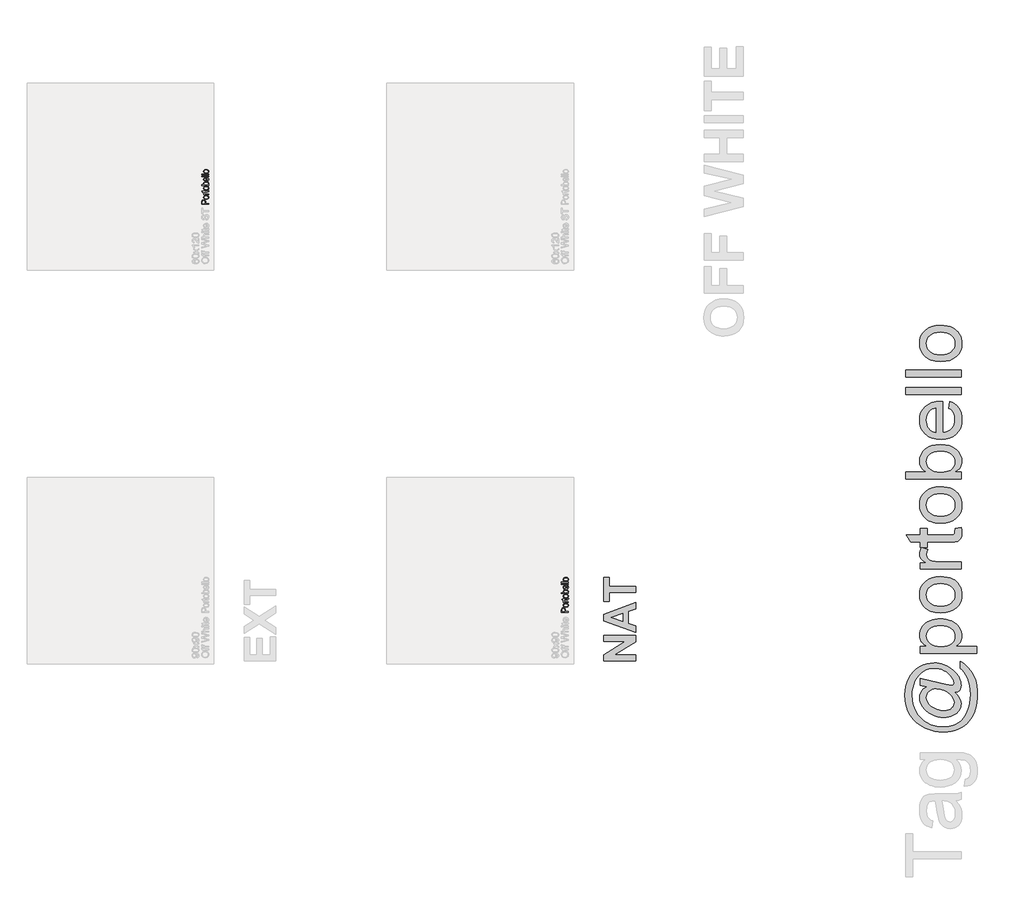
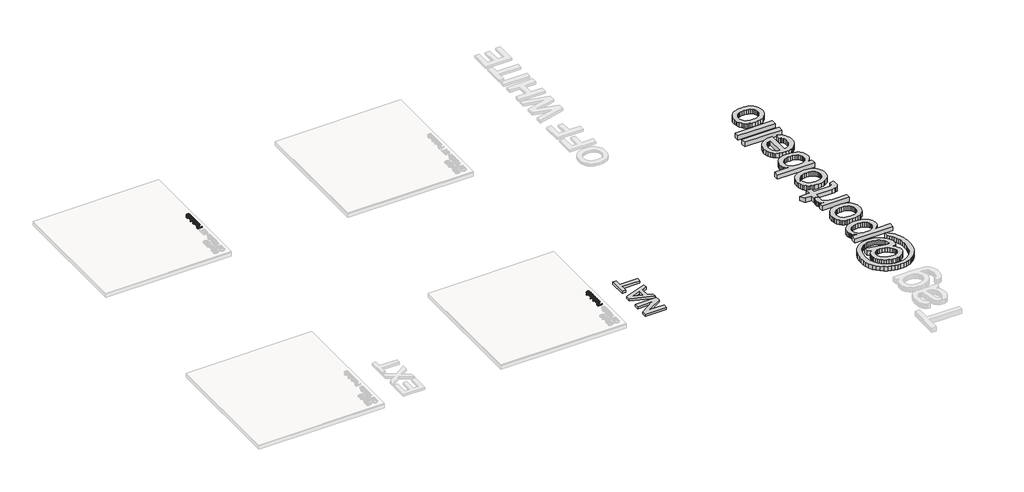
# One storey, part 4 of 12: 4 proxies.
"""IFC4 building model written with IfcOpenShell, lengths in millimetres."""

from ifc_helpers import new_model, si_unit, frame, origin, origin_with_axes, place, context, project, spatial, polyline, outline, extrude, element, save

model = new_model("IFC4")

# Units and contexts
model_context = context("Model", 3, world=origin())
ifc_project = project(units=[si_unit("LENGTHUNIT", "METRE", prefix="MILLI")], contexts=[model_context])

# Site, building, storey
site = spatial("IfcSite", under=ifc_project)
building = spatial("IfcBuilding", under=site)
storey = spatial("IfcBuildingStorey", under=building, Name="PORTOBELLO - SHOWROOM", Elevation=0.0)

# Proxies
placement = place(None, origin())
element("IfcBuildingElementProxy", 1, Name="10mm Arial Narrow", ObjectType="10mm Arial Narrow", at=placement, inside=storey, context=model_context, shape_type="SweptSolid", body=[
    extrude(outline(polyline([(-5684.554372, -7796.6698539), (-5785.2729757, -7796.6698539), (-5785.2729757, -7765.3729692), (-5783.394655, -7749.0772677), (-5773.9142118, -7737.6042816), (-5756.895103, -7733.3146032), (-5744.8192774, -7735.1009116), (-5735.1928837, -7740.4598368), (-5728.8916253, -7750.2036256), (-5726.7912058, -7765.1445248), (-5726.7912058, -7786.9228923), (-5684.554372, -7786.9228923), (-5684.554372, -7796.6698539)]), holes=[polyline([(-5738.1626611, -7786.9228923), (-5738.1626611, -7763.9515373), (-5742.6934753, -7748.0873419), (-5756.362066, -7743.0615648), (-5766.5278424, -7745.5363793), (-5772.3277923, -7751.5140081), (-5773.9015204, -7764.1799817), (-5773.9015204, -7786.9228923), (-5738.1626611, -7786.9228923)])]), frame((0.0, 0.0, 18.0), z_axis=(0.0, 0.0, 1.0), x_axis=(1.0, 0.0, 0.0)), (0.0, 0.0, 1.0), 20.0),
    extrude(outline(polyline([(-5721.1054782, -7725.1921351), (-5737.6962537, -7723.2376663), (-5749.6483385, -7717.3742596), (-5756.8728931, -7708.5156929), (-5759.281078, -7697.5757438), (-5756.8728931, -7686.7627082), (-5749.6483385, -7677.8787588), (-5737.8866241, -7671.939204), (-5721.8669595, -7669.9593524), (-5704.705073, -7671.9043028), (-5692.5626178, -7677.7391539), (-5685.3380632, -7686.588202), (-5682.9298783, -7697.5757438), (-5685.3444089, -7708.436372), (-5692.5880005, -7717.3108029), (-5704.546431, -7723.2218021), (-5721.1054782, -7725.1921351)]), holes=[polyline([(-5721.1308609, -7715.4451735), (-5708.5791095, -7714.1411366), (-5699.7078514, -7710.229026), (-5694.4345929, -7704.3878293), (-5692.67684, -7697.2965339), (-5694.450457, -7690.5764608), (-5699.7713082, -7684.8843875), (-5708.6584304, -7681.0008324), (-5721.1308609, -7679.7063141), (-5733.6445382, -7681.0103509), (-5742.5031049, -7684.9224615), (-5747.7763635, -7690.7636583), (-5749.5341163, -7697.8549536), (-5747.7668449, -7704.6226194), (-5742.4650308, -7710.3051742), (-5733.5969456, -7714.1601737), (-5721.1308609, -7715.4451735)])]), frame((0.0, 0.0, 18.0), z_axis=(0.0, 0.0, 1.0), x_axis=(1.0, 0.0, 0.0)), (0.0, 0.0, 1.0), 20.0),
    extrude(outline(polyline([(-5692.67684, -7598.4816336), (-5682.9298783, -7596.85714), (-5682.9298783, -7604.2181267), (-5685.0493349, -7612.492891), (-5690.8492847, -7616.8079522), (-5705.4951099, -7617.9755569), (-5747.9096227, -7617.9755569), (-5747.9096227, -7626.098025), (-5751.1586099, -7626.098025), (-5746.2851291, -7627.7225186), (-5747.9096227, -7635.286567), (-5745.5871045, -7641.3657266), (-5739.1018214, -7645.2365903), (-5723.6945148, -7647.2164419), (-5684.554372, -7647.2164419), (-5684.554372, -7656.9634036), (-5757.6565844, -7656.9634036), (-5757.6565844, -7647.2164419), (-5747.9603881, -7647.2164419), (-5757.0473993, -7640.9722946), (-5759.281078, -7634.575851), (-5757.6565844, -7626.098025), (-5757.6565844, -7617.9755569), (-5773.9015204, -7617.9755569), (-5782.0239885, -7608.2285953), (-5757.6565844, -7608.2285953), (-5757.6565844, -7598.4816336), (-5747.9096227, -7598.4816336), (-5747.9096227, -7608.2285953), (-5703.2614312, -7608.2285953), (-5695.2658767, -7607.3655831), (-5692.67684, -7602.7459294), (-5692.67684, -7598.4816336)])), frame((0.0, 0.0, 18.0), z_axis=(0.0, 0.0, 1.0), x_axis=(1.0, 0.0, 0.0)), (0.0, 0.0, 1.0), 20.0),
    extrude(outline(polyline([(-5721.1054782, -7591.9836592), (-5737.6962537, -7590.0291903), (-5749.6483385, -7584.1657837), (-5756.8728931, -7575.307217), (-5759.281078, -7564.3672679), (-5756.8728931, -7553.5542323), (-5749.6483385, -7544.6702828), (-5737.8866241, -7538.7307281), (-5721.8669595, -7536.7508765), (-5704.705073, -7538.6958269), (-5692.5626178, -7544.5306779), (-5685.3380632, -7553.3797261), (-5682.9298783, -7564.3672679), (-5685.3444089, -7575.227896), (-5692.5880005, -7584.1023269), (-5704.546431, -7590.0133261), (-5721.1054782, -7591.9836592)]), holes=[polyline([(-5721.1308609, -7582.2366975), (-5708.5791095, -7580.9326607), (-5699.7078514, -7577.0205501), (-5694.4345929, -7571.1793534), (-5692.67684, -7564.088058), (-5694.450457, -7557.3679848), (-5699.7713082, -7551.6759115), (-5708.6584304, -7547.7923565), (-5721.1308609, -7546.4978382), (-5733.6445382, -7547.801875), (-5742.5031049, -7551.7139856), (-5747.7763635, -7557.5551823), (-5749.5341163, -7564.6464777), (-5747.7668449, -7571.4141434), (-5742.4650308, -7577.0966982), (-5733.5969456, -7580.9516977), (-5721.1308609, -7582.2366975)])]), frame((0.0, 0.0, 18.0), z_axis=(0.0, 0.0, 1.0), x_axis=(1.0, 0.0, 0.0)), (0.0, 0.0, 1.0), 20.0),
    extrude(outline(polyline([(-5684.554372, -7514.007966), (-5684.554372, -7523.7549276), (-5785.2729757, -7523.7549276), (-5785.2729757, -7514.007966), (-5749.8640916, -7514.007966), (-5756.9458684, -7506.6089052), (-5759.281078, -7497.4076719), (-5755.080239, -7484.5259452), (-5742.3508086, -7475.2485638), (-5721.6638978, -7471.7711321), (-5705.2095544, -7473.7033911), (-5693.0068153, -7479.5001681), (-5685.4491126, -7487.8732905), (-5682.9298783, -7497.5345855), (-5685.5442978, -7506.8754237), (-5693.3114078, -7514.007966), (-5684.554372, -7514.007966)]), holes=[polyline([(-5721.6638978, -7514.007966), (-5704.4163446, -7511.9265835), (-5695.6846915, -7506.0377942), (-5692.67684, -7497.5853509), (-5694.4663212, -7491.6426233), (-5699.834765, -7486.404266), (-5721.2577744, -7481.5180938), (-5742.6934753, -7486.226587), (-5747.8239561, -7491.47129), (-5749.5341163, -7497.7884126), (-5747.7446351, -7503.7660414), (-5742.3761914, -7509.058337), (-5721.6638978, -7514.007966)])]), frame((0.0, 0.0, 18.0), z_axis=(0.0, 0.0, 1.0), x_axis=(1.0, 0.0, 0.0)), (0.0, 0.0, 1.0), 20.0),
    extrude(outline(polyline([(-5707.2972825, -7419.7873367), (-5705.6727889, -7410.040375), (-5695.7862223, -7413.7399054), (-5688.6663714, -7419.5588922), (-5684.3640016, -7427.2625455), (-5682.9298783, -7436.6160751), (-5685.3444089, -7448.2096291), (-5692.5880005, -7457.3537514), (-5704.3941347, -7463.2933061), (-5720.4962931, -7465.2731577), (-5737.1632167, -7463.2837876), (-5749.343746, -7457.3156773), (-5756.796745, -7448.3016415), (-5759.281078, -7437.1744948), (-5756.8824116, -7426.4915456), (-5749.6864126, -7417.7440283), (-5737.946908, -7411.9091772), (-5721.917725, -7409.9642269), (-5718.6687377, -7410.040375), (-5718.6687377, -7455.5261961), (-5699.2255799, -7449.5231845), (-5694.314025, -7443.5931483), (-5692.67684, -7436.4891616), (-5696.3319506, -7426.3106938), (-5707.2972825, -7419.7873367)]), holes=[polyline([(-5728.4156994, -7454.8662455), (-5728.4156994, -7419.7873367), (-5742.6807839, -7424.0516324), (-5747.8207832, -7429.8769649), (-5749.5341163, -7437.0983467), (-5743.823006, -7449.3074315), (-5728.4156994, -7454.8662455)])]), frame((0.0, 0.0, 18.0), z_axis=(0.0, 0.0, 1.0), x_axis=(1.0, 0.0, 0.0)), (0.0, 0.0, 1.0), 20.0),
    extrude(outline(polyline([(-5684.554372, -7397.0444261), (-5785.2729757, -7397.0444261), (-5785.2729757, -7387.2974645), (-5684.554372, -7387.2974645), (-5684.554372, -7397.0444261)])), frame((0.0, 0.0, 18.0), z_axis=(0.0, 0.0, 1.0), x_axis=(1.0, 0.0, 0.0)), (0.0, 0.0, 1.0), 20.0),
    extrude(outline(polyline([(-5684.554372, -7371.0525284), (-5785.2729757, -7371.0525284), (-5785.2729757, -7361.3055667), (-5684.554372, -7361.3055667), (-5684.554372, -7371.0525284)])), frame((0.0, 0.0, 18.0), z_axis=(0.0, 0.0, 1.0), x_axis=(1.0, 0.0, 0.0)), (0.0, 0.0, 1.0), 20.0),
    extrude(outline(polyline([(-5721.1054782, -7349.9341115), (-5737.6962537, -7347.9796426), (-5749.6483385, -7342.116236), (-5756.8728931, -7333.2576693), (-5759.281078, -7322.3177201), (-5756.8728931, -7311.5046845), (-5749.6483385, -7302.6207351), (-5737.8866241, -7296.6811804), (-5721.8669595, -7294.7013288), (-5704.705073, -7296.6462791), (-5692.5626178, -7302.4811302), (-5685.3380632, -7311.3301784), (-5682.9298783, -7322.3177201), (-5685.3444089, -7333.1783483), (-5692.5880005, -7342.0527792), (-5704.546431, -7347.9637784), (-5721.1054782, -7349.9341115)]), holes=[polyline([(-5721.1308609, -7340.1871498), (-5708.5791095, -7338.883113), (-5699.7078514, -7334.9710024), (-5694.4345929, -7329.1298056), (-5692.67684, -7322.0385103), (-5694.450457, -7315.3184371), (-5699.7713082, -7309.6263638), (-5708.6584304, -7305.7428088), (-5721.1308609, -7304.4482904), (-5733.6445382, -7305.7523273), (-5742.5031049, -7309.6644379), (-5747.7763635, -7315.5056346), (-5749.5341163, -7322.59693), (-5747.7668449, -7329.3645957), (-5742.4650308, -7335.0471505), (-5733.5969456, -7338.90215), (-5721.1308609, -7340.1871498)])]), frame((0.0, 0.0, 18.0), z_axis=(0.0, 0.0, 1.0), x_axis=(1.0, 0.0, 0.0)), (0.0, 0.0, 1.0), 20.0),
])
element("IfcBuildingElementProxy", 2, Name="10mm Arial Narrow", ObjectType="10mm Arial Narrow", at=placement, inside=storey, context=model_context, shape_type="SweptSolid", body=[
    extrude(outline(polyline([(-10884.579388, -1896.6698539), (-10985.2979918, -1896.6698539), (-10985.2979918, -1865.3729692), (-10983.4196711, -1849.0772677), (-10973.9392279, -1837.6042816), (-10956.9201191, -1833.3146032), (-10944.8442935, -1835.1009116), (-10935.2178998, -1840.4598368), (-10928.9166413, -1850.2036256), (-10926.8162219, -1865.1445248), (-10926.8162219, -1886.9228923), (-10884.579388, -1886.9228923), (-10884.579388, -1896.6698539)]), holes=[polyline([(-10938.1876771, -1886.9228923), (-10938.1876771, -1863.9515373), (-10942.7184913, -1848.0873419), (-10956.3870821, -1843.0615648), (-10966.5528585, -1845.5363793), (-10972.3528083, -1851.5140081), (-10973.9265365, -1864.1799817), (-10973.9265365, -1886.9228923), (-10938.1876771, -1886.9228923)])]), frame((0.0, 0.0, 19.0), z_axis=(0.0, 0.0, 1.0), x_axis=(1.0, 0.0, 0.0)), (0.0, 0.0, 1.0), 20.0),
    extrude(outline(polyline([(-10921.1304942, -1825.1921351), (-10937.7212698, -1823.2376663), (-10949.6733546, -1817.3742596), (-10956.8979092, -1808.5156929), (-10959.3060941, -1797.5757438), (-10956.8979092, -1786.7627082), (-10949.6733546, -1777.8787588), (-10937.9116401, -1771.939204), (-10921.8919756, -1769.9593524), (-10904.730089, -1771.9043028), (-10892.5876339, -1777.7391539), (-10885.3630793, -1786.588202), (-10882.9548944, -1797.5757438), (-10885.369425, -1808.436372), (-10892.6130166, -1817.3108029), (-10904.5714471, -1823.2218021), (-10921.1304942, -1825.1921351)]), holes=[polyline([(-10921.155877, -1815.4451735), (-10908.6041256, -1814.1411366), (-10899.7328675, -1810.229026), (-10894.4596089, -1804.3878293), (-10892.7018561, -1797.2965339), (-10894.4754731, -1790.5764608), (-10899.7963243, -1784.8843875), (-10908.6834465, -1781.0008324), (-10921.155877, -1779.7063141), (-10933.6695543, -1781.0103509), (-10942.528121, -1784.9224615), (-10947.8013795, -1790.7636583), (-10949.5591324, -1797.8549536), (-10947.791861, -1804.6226194), (-10942.4900469, -1810.3051742), (-10933.6219617, -1814.1601737), (-10921.155877, -1815.4451735)])]), frame((0.0, 0.0, 19.0), z_axis=(0.0, 0.0, 1.0), x_axis=(1.0, 0.0, 0.0)), (0.0, 0.0, 1.0), 20.0),
    extrude(outline(polyline([(-10892.7018561, -1698.4816336), (-10882.9548944, -1696.85714), (-10882.9548944, -1704.2181267), (-10885.0743509, -1712.492891), (-10890.8743008, -1716.8079522), (-10905.520126, -1717.9755569), (-10947.9346388, -1717.9755569), (-10947.9346388, -1726.098025), (-10951.183626, -1726.098025), (-10946.3101452, -1727.7225186), (-10947.9346388, -1735.286567), (-10945.6121206, -1741.3657266), (-10939.1268375, -1745.2365903), (-10923.7195309, -1747.2164419), (-10884.579388, -1747.2164419), (-10884.579388, -1756.9634036), (-10957.6816004, -1756.9634036), (-10957.6816004, -1747.2164419), (-10947.9854042, -1747.2164419), (-10957.0724153, -1740.9722946), (-10959.3060941, -1734.575851), (-10957.6816004, -1726.098025), (-10957.6816004, -1717.9755569), (-10973.9265365, -1717.9755569), (-10982.0490046, -1708.2285953), (-10957.6816004, -1708.2285953), (-10957.6816004, -1698.4816336), (-10947.9346388, -1698.4816336), (-10947.9346388, -1708.2285953), (-10903.2864473, -1708.2285953), (-10895.2908928, -1707.3655831), (-10892.7018561, -1702.7459294), (-10892.7018561, -1698.4816336)])), frame((0.0, 0.0, 19.0), z_axis=(0.0, 0.0, 1.0), x_axis=(1.0, 0.0, 0.0)), (0.0, 0.0, 1.0), 20.0),
    extrude(outline(polyline([(-10921.1304942, -1691.9836592), (-10937.7212698, -1690.0291903), (-10949.6733546, -1684.1657837), (-10956.8979092, -1675.307217), (-10959.3060941, -1664.3672679), (-10956.8979092, -1653.5542323), (-10949.6733546, -1644.6702828), (-10937.9116401, -1638.7307281), (-10921.8919756, -1636.7508765), (-10904.730089, -1638.6958269), (-10892.5876339, -1644.5306779), (-10885.3630793, -1653.3797261), (-10882.9548944, -1664.3672679), (-10885.369425, -1675.227896), (-10892.6130166, -1684.1023269), (-10904.5714471, -1690.0133261), (-10921.1304942, -1691.9836592)]), holes=[polyline([(-10921.155877, -1682.2366975), (-10908.6041256, -1680.9326607), (-10899.7328675, -1677.0205501), (-10894.4596089, -1671.1793534), (-10892.7018561, -1664.088058), (-10894.4754731, -1657.3679848), (-10899.7963243, -1651.6759115), (-10908.6834465, -1647.7923565), (-10921.155877, -1646.4978382), (-10933.6695543, -1647.801875), (-10942.528121, -1651.7139856), (-10947.8013795, -1657.5551823), (-10949.5591324, -1664.6464777), (-10947.791861, -1671.4141434), (-10942.4900469, -1677.0966982), (-10933.6219617, -1680.9516977), (-10921.155877, -1682.2366975)])]), frame((0.0, 0.0, 19.0), z_axis=(0.0, 0.0, 1.0), x_axis=(1.0, 0.0, 0.0)), (0.0, 0.0, 1.0), 20.0),
    extrude(outline(polyline([(-10884.579388, -1614.007966), (-10884.579388, -1623.7549276), (-10985.2979918, -1623.7549276), (-10985.2979918, -1614.007966), (-10949.8891077, -1614.007966), (-10956.9708845, -1606.6089052), (-10959.3060941, -1597.4076719), (-10955.1052551, -1584.5259452), (-10942.3758247, -1575.2485638), (-10921.6889139, -1571.7711321), (-10905.2345705, -1573.7033911), (-10893.0318313, -1579.5001681), (-10885.4741287, -1587.8732905), (-10882.9548944, -1597.5345855), (-10885.5693138, -1606.8754237), (-10893.3364239, -1614.007966), (-10884.579388, -1614.007966)]), holes=[polyline([(-10921.6889139, -1614.007966), (-10904.4413607, -1611.9265835), (-10895.7097075, -1606.0377942), (-10892.7018561, -1597.5853509), (-10894.4913373, -1591.6426233), (-10899.859781, -1586.404266), (-10921.2827905, -1581.5180938), (-10942.7184913, -1586.226587), (-10947.8489721, -1591.47129), (-10949.5591324, -1597.7884126), (-10947.7696512, -1603.7660414), (-10942.4012074, -1609.058337), (-10921.6889139, -1614.007966)])]), frame((0.0, 0.0, 19.0), z_axis=(0.0, 0.0, 1.0), x_axis=(1.0, 0.0, 0.0)), (0.0, 0.0, 1.0), 20.0),
    extrude(outline(polyline([(-10907.3222986, -1519.7873367), (-10905.697805, -1510.040375), (-10895.8112384, -1513.7399054), (-10888.6913875, -1519.5588922), (-10884.3890177, -1527.2625455), (-10882.9548944, -1536.6160751), (-10885.369425, -1548.2096291), (-10892.6130166, -1557.3537514), (-10904.4191508, -1563.2933061), (-10920.5213091, -1565.2731577), (-10937.1882328, -1563.2837876), (-10949.3687621, -1557.3156773), (-10956.8217611, -1548.3016415), (-10959.3060941, -1537.1744948), (-10956.9074277, -1526.4915456), (-10949.7114287, -1517.7440283), (-10937.9719241, -1511.9091772), (-10921.942741, -1509.9642269), (-10918.6937538, -1510.040375), (-10918.6937538, -1555.5261961), (-10899.2505959, -1549.5231845), (-10894.339041, -1543.5931483), (-10892.7018561, -1536.4891616), (-10896.3569667, -1526.3106938), (-10907.3222986, -1519.7873367)]), holes=[polyline([(-10928.4407155, -1554.8662455), (-10928.4407155, -1519.7873367), (-10942.7058, -1524.0516324), (-10947.8457993, -1529.8769649), (-10949.5591324, -1537.0983467), (-10943.8480221, -1549.3074315), (-10928.4407155, -1554.8662455)])]), frame((0.0, 0.0, 19.0), z_axis=(0.0, 0.0, 1.0), x_axis=(1.0, 0.0, 0.0)), (0.0, 0.0, 1.0), 20.0),
    extrude(outline(polyline([(-10884.579388, -1497.0444261), (-10985.2979918, -1497.0444261), (-10985.2979918, -1487.2974645), (-10884.579388, -1487.2974645), (-10884.579388, -1497.0444261)])), frame((0.0, 0.0, 19.0), z_axis=(0.0, 0.0, 1.0), x_axis=(1.0, 0.0, 0.0)), (0.0, 0.0, 1.0), 20.0),
    extrude(outline(polyline([(-10884.579388, -1471.0525284), (-10985.2979918, -1471.0525284), (-10985.2979918, -1461.3055667), (-10884.579388, -1461.3055667), (-10884.579388, -1471.0525284)])), frame((0.0, 0.0, 19.0), z_axis=(0.0, 0.0, 1.0), x_axis=(1.0, 0.0, 0.0)), (0.0, 0.0, 1.0), 20.0),
    extrude(outline(polyline([(-10921.1304942, -1449.9341115), (-10937.7212698, -1447.9796426), (-10949.6733546, -1442.116236), (-10956.8979092, -1433.2576693), (-10959.3060941, -1422.3177201), (-10956.8979092, -1411.5046845), (-10949.6733546, -1402.6207351), (-10937.9116401, -1396.6811804), (-10921.8919756, -1394.7013288), (-10904.730089, -1396.6462791), (-10892.5876339, -1402.4811302), (-10885.3630793, -1411.3301784), (-10882.9548944, -1422.3177201), (-10885.369425, -1433.1783483), (-10892.6130166, -1442.0527792), (-10904.5714471, -1447.9637784), (-10921.1304942, -1449.9341115)]), holes=[polyline([(-10921.155877, -1440.1871498), (-10908.6041256, -1438.883113), (-10899.7328675, -1434.9710024), (-10894.4596089, -1429.1298056), (-10892.7018561, -1422.0385103), (-10894.4754731, -1415.3184371), (-10899.7963243, -1409.6263638), (-10908.6834465, -1405.7428088), (-10921.155877, -1404.4482904), (-10933.6695543, -1405.7523273), (-10942.528121, -1409.6644379), (-10947.8013795, -1415.5056346), (-10949.5591324, -1422.59693), (-10947.791861, -1429.3645957), (-10942.4900469, -1435.0471505), (-10933.6219617, -1438.90215), (-10921.155877, -1440.1871498)])]), frame((0.0, 0.0, 19.0), z_axis=(0.0, 0.0, 1.0), x_axis=(1.0, 0.0, 0.0)), (0.0, 0.0, 1.0), 20.0),
])
element("IfcBuildingElementProxy", 3, Name="450mm Arial", ObjectType="450mm Arial", at=placement, inside=storey, context=model_context, shape_type="SweptSolid", body=[
    extrude(outline(polyline([(-4714.3439144, -8502.1411661), (-5173.4606444, -8502.1411661), (-5173.4606444, -8410.4772356), (-4864.4222502, -8217.9260475), (-5173.4606444, -8217.9260475), (-5173.4606444, -8130.4752418), (-4714.3439144, -8130.4752418), (-4714.3439144, -8224.9858782), (-5018.8275791, -8414.6903604), (-4714.3439144, -8414.6903604), (-4714.3439144, -8502.1411661)])), origin_with_axes(), (0.0, 0.0, 1.0), 50.0),
    extrude(outline(polyline([(-4714.3439144, -7656.7833775), (-4714.3439144, -7748.6750445), (-4816.3698544, -7784.6574072), (-4816.3698544, -7957.9648634), (-4714.3439144, -7993.4917532), (-4714.3439144, -8086.749839), (-5173.4606444, -7919.3635311), (-5173.4606444, -7825.9915771), (-4714.3439144, -7656.7833775)]), holes=[polyline([(-4896.533093, -7812.6689935), (-5064.1471372, -7871.7666082), (-4896.533093, -7930.0671454), (-4896.533093, -7812.6689935)])]), origin_with_axes(), (0.0, 0.0, 1.0), 50.0),
    extrude(outline(polyline([(-4714.3439144, -7511.0320347), (-5093.2974058, -7511.0320347), (-5093.2974058, -7642.2082433), (-5173.4606444, -7642.2082433), (-5173.4606444, -7292.4050204), (-5093.2974058, -7292.4050204), (-5093.2974058, -7423.581229), (-4714.3439144, -7423.581229), (-4714.3439144, -7511.0320347)])), origin_with_axes(), (0.0, 0.0, 1.0), 50.0),
])
element("IfcBuildingElementProxy", 4, Name="80mm Arial", ObjectType="80mm Arial", at=placement, inside=storey, context=model_context, shape_type="SweptSolid", body=[
    extrude(outline(polyline([(-100.2950777, -8955.7052888), (-62.9945003, -8992.9570753), (-33.8419889, -9034.4536627), (-15.03313, -9078.1458368), (-8.7635104, -9121.9843833), (-10.5565728, -9145.9162776), (-15.9357601, -9169.5066362), (-24.9010722, -9192.7554591), (-37.4525091, -9215.6627463), (-53.7242456, -9237.3319667), (-73.8504564, -9256.8665889), (-97.8311416, -9274.2666129), (-125.666301, -9289.5320389), (-156.1605598, -9301.9553999), (-188.1185431, -9310.8292293), (-221.5402507, -9316.1535268), (-256.4256828, -9317.9282927), (-300.2642293, -9315.1777106), (-344.1515666, -9306.9259641), (-388.0876947, -9293.1730534), (-432.0726136, -9273.9189784), (-473.3374446, -9250.5725738), (-509.1133091, -9224.5426745), (-539.4002069, -9195.8292804), (-564.1981382, -9164.4323915), (-583.4949052, -9131.9316105), (-597.2783102, -9099.9065399), (-605.5483532, -9068.3571797), (-608.3050342, -9037.28353), (-606.7376293, -9014.120091), (-602.0354145, -8991.4689555), (-583.2265557, -8947.7035953), (-569.0467254, -8927.0772786), (-551.5857128, -8907.9390818), (-506.8201408, -8874.1270476), (-595.8145857, -8855.7817015), (-595.8145857, -8755.8581142), (-229.2979902, -8838.6073349), (-144.7923001, -8855.7817015), (-131.0088951, -8852.9762297), (-119.3234952, -8844.5598142), (-111.3461971, -8832.1913429), (-108.6870977, -8817.5297032), (-110.6631257, -8801.8556542), (-116.5912096, -8783.9128323), (-140.3035452, -8741.22087), (-162.6680347, -8711.6231423), (-188.5820558, -8685.2822016), (-218.0456087, -8662.1980477), (-251.0586933, -8642.3706806), (-286.120992, -8626.4465786), (-321.7321875, -8615.0722201), (-357.8922796, -8608.247605), (-394.6012684, -8605.9727332), (-437.0248812, -8608.9001821), (-478.0335605, -8617.6825286), (-517.6273061, -8632.3197729), (-555.8061182, -8652.8119148), (-591.4051159, -8679.1162624), (-623.2594187, -8711.1901239), (-651.3690265, -8749.0334991), (-675.7339393, -8792.646388), (-695.4149339, -8840.3577054), (-709.4727872, -8890.4963657), (-717.9074992, -8943.0623691), (-720.7190699, -8998.0557154), (-717.1512416, -9060.7885047), (-706.4477567, -9120.7646129), (-688.6086153, -9177.9840401), (-663.6338174, -9232.4467864), (-631.9990733, -9282.5427548), (-594.1800935, -9326.6618484), (-550.176878, -9364.8040674), (-499.9894268, -9396.9694116), (-445.758437, -9422.499205), (-389.6246053, -9440.7347718), (-331.5879319, -9451.6761119), (-271.6484168, -9455.3232252), (-209.9585312, -9451.712705), (-152.7208074, -9440.8811443), (-99.9352454, -9422.828543), (-51.6018452, -9397.5549013), (-8.5073586, -9365.4444468), (28.5614624, -9326.8814071), (59.6046179, -9281.8657822), (84.6221078, -9230.3975722), (103.8761828, -9174.2332463), (117.6290935, -9115.1292739), (125.88084, -9053.0856549), (128.6314221, -8988.1023893), (125.8991365, -8919.8562381), (117.7022798, -8857.3917983), (104.0408518, -8800.7090701), (84.9148527, -8749.8080532), (61.8855884, -8704.8107249), (36.5143651, -8665.8390622), (8.8011827, -8632.8930649), (-21.2539588, -8605.9727332), (-21.2539588, -8506.049146), (8.0571228, -8522.2781905), (37.6365538, -8543.447305), (67.4843343, -8569.5564894), (97.6004644, -8600.6057437), (126.2711665, -8635.7168333), (151.7826634, -8674.0115235), (174.1349551, -8715.4898144), (193.3280416, -8760.1517058), (208.73984, -8808.7717521), (219.7482675, -8862.1245073), (226.3533239, -8920.2099715), (228.5550094, -8983.0281447), (226.6094757, -9041.8759653), (220.7728746, -9098.3940246), (211.045206, -9152.5823225), (197.42647, -9204.4408591), (179.9105678, -9253.2621675), (158.4914004, -9298.3387808), (133.1689678, -9339.6706992), (103.9432702, -9377.2579227), (71.5766639, -9410.7650143), (36.8315054, -9439.8565372), (-0.2922053, -9464.5324914), (-39.7944682, -9484.792877), (-92.342175, -9504.6873314), (-146.939096, -9518.897656), (-203.5852311, -9527.4238508), (-262.2805805, -9530.2659157), (-328.0384002, -9526.8749541), (-392.2105185, -9516.7020694), (-454.7969353, -9499.7472615), (-515.7976506, -9476.0105304), (-585.3428573, -9439.5515946), (-646.2398921, -9396.1399677), (-698.4887552, -9345.7756499), (-742.0894464, -9288.458641), (-776.4564761, -9224.4328952), (-801.0043545, -9153.9423665), (-815.7330815, -9076.9870549), (-820.6426572, -8993.5669605), (-817.2029048, -8928.1384788), (-806.8836476, -8866.1253541), (-789.6848856, -8807.5275863), (-765.6066188, -8752.3451756), (-734.7098358, -8701.6881128), (-697.055525, -8656.6663891), (-652.6436865, -8617.2800044), (-601.4743202, -8583.5289588), (-553.5983338, -8560.560683), (-503.6487379, -8544.1547718), (-451.6255324, -8534.311225), (-397.5287172, -8531.0300428), (-358.7979591, -8532.7316224), (-321.1588954, -8537.8363613), (-284.6115262, -8546.3442596), (-249.1558515, -8558.2553171), (-214.7918712, -8573.5695338), (-181.5195855, -8592.2869099), (-149.3389941, -8614.4074452), (-118.2500973, -8639.9311399), (-70.3497155, -8689.7465611), (-36.1351571, -8741.8063597), (-24.1600617, -8768.6779006), (-15.6064221, -8796.1105358), (-10.4742383, -8824.1042654), (-8.7635104, -8852.6590894), (-11.6421684, -8885.9832154), (-20.2781425, -8912.1838826), (-34.2323154, -8931.8465807), (-53.0655696, -8945.5567994), (-71.8012422, -8951.6068604), (-100.2950777, -8955.7052888)]), holes=[polyline([(-254.8643768, -9218.0047054), (-222.1501359, -9215.8152176), (-193.2903694, -9209.2467543), (-168.2850771, -9198.2993154), (-147.1342592, -9182.9729009), (-130.313626, -9164.8166192), (-118.2988881, -9145.3795786), (-111.0900453, -9124.6617792), (-108.6870977, -9102.6632209), (-112.9318985, -9071.6078677), (-125.666301, -9038.9424176), (-146.7439327, -9006.2281768), (-176.0184212, -8975.0264512), (-213.8800929, -8947.3376642), (-260.7192745, -8925.1622391), (-312.1447925, -8910.5981811), (-363.7654738, -8905.7434951), (-396.1930687, -8908.0183668), (-424.7783869, -8914.842982), (-449.5214285, -8926.2173405), (-470.4221935, -8942.1414425), (-487.0293668, -8961.334529), (-498.8916335, -8982.5158411), (-506.0089935, -9005.685379), (-508.3814469, -9030.8431425), (-504.2586231, -9064.3624318), (-491.8901517, -9095.8325069), (-470.4221935, -9125.8144622), (-439.0009092, -9154.869392), (-398.6753013, -9180.6309418), (-350.4943724, -9200.7327572), (-300.5325788, -9213.6867184), (-254.8643768, -9218.0047054)])]), origin_with_axes(), (0.0, 0.0, 1.0), 100.0),
    extrude(outline(polyline([(216.064561, -8393.6351103), (-595.8145857, -8393.6351103), (-595.8145857, -8293.711523), (-497.842631, -8293.711523), (-546.1699324, -8261.1192591), (-565.1556579, -8243.3594028), (-580.6894334, -8224.6237302), (-592.7712587, -8204.3755423), (-601.401134, -8182.0781403), (-606.5790591, -8157.731524), (-608.3050342, -8131.3356936), (-605.8898889, -8096.4868546), (-598.644453, -8063.7604161), (-586.5687265, -8033.1563779), (-569.6627094, -8004.6747402), (-548.365519, -7978.9375857), (-523.1162727, -7956.5669975), (-493.9149705, -7937.5629754), (-460.7616123, -7921.9255195), (-424.7905846, -7909.7156182), (-387.1362738, -7900.9942602), (-347.7986799, -7895.7614454), (-306.777803, -7894.0171738), (-262.9209599, -7895.9871029), (-221.3206921, -7901.8968903), (-181.9769993, -7911.7465359), (-144.8898818, -7925.5360397), (-111.0290568, -7943.0763374), (-81.3642418, -7964.1783645), (-55.8954368, -7988.842121), (-34.6226419, -8017.067607), (-17.8447007, -8047.470383), (-5.860457, -8078.6660098), (1.3300893, -8110.6544873), (3.726938, -8143.4358155), (2.12294, -8167.0200753), (-2.689054, -8189.372367), (-10.7090441, -8210.4926906), (-21.9370302, -8230.3810462), (-50.99196, -8265.486037), (-86.828813, -8293.711523), (216.064561, -8293.711523), (216.064561, -8393.6351103)]), holes=[polyline([(-297.6051299, -8293.711523), (-249.4485964, -8291.0097316), (-208.0251952, -8282.9043576), (-173.3349264, -8269.395401), (-145.3777899, -8250.4828617), (-123.8610409, -8227.715848), (-108.4919344, -8202.6434684), (-99.2704706, -8175.2657229), (-96.1966493, -8145.5826113), (-99.3802499, -8115.4725802), (-108.9310518, -8087.5947288), (-124.8490549, -8061.9490571), (-147.1342592, -8038.5355652), (-176.1038051, -8019.0253384), (-212.0748328, -8005.0894621), (-255.0473423, -7996.7279363), (-305.0213337, -7993.9407611), (-352.7631453, -7996.660849), (-394.1133602, -8004.8211126), (-429.0719785, -8018.4215521), (-457.6390002, -8037.4621673), (-479.8388206, -8060.2840706), (-495.6958352, -8085.2283743), (-505.2100439, -8112.2950784), (-508.3814469, -8141.4841829), (-505.0087818, -8170.5818047), (-494.8907868, -8197.9595503), (-478.0274616, -8223.6174196), (-454.4188065, -8247.5554128), (-424.3819615, -8267.748711), (-388.2340671, -8282.1724954), (-345.9751233, -8290.8267661), (-297.6051299, -8293.711523)])]), origin_with_axes(), (0.0, 0.0, 1.0), 100.0),
    extrude(outline(polyline([(-302.2890481, -7806.5840349), (-378.3173342, -7801.1804522), (-412.3885695, -7794.4259739), (-443.8311998, -7784.9697043), (-472.645225, -7772.8116433), (-498.830645, -7757.9517909), (-522.3874599, -7740.3901473), (-543.3156698, -7720.1267123), (-571.7485167, -7682.0454819), (-592.0576931, -7640.0121955), (-604.2431989, -7594.0268532), (-608.3050342, -7544.089455), (-603.3588654, -7488.9619339), (-588.520359, -7439.1160185), (-563.7895151, -7394.5517086), (-529.1663337, -7355.2690044), (-485.8217942, -7323.2073407), (-434.9268762, -7300.3061523), (-376.4815798, -7286.5654393), (-310.4859048, -7281.9852016), (-256.9989749, -7284.0100204), (-209.5377105, -7290.0844768), (-168.1021116, -7300.2085707), (-132.6921782, -7314.3823022), (-102.1064366, -7332.4288046), (-75.143413, -7354.1712111), (-51.8031073, -7379.6095218), (-32.0855195, -7408.7437367), (-16.4175694, -7440.4394693), (-5.2261764, -7473.5623332), (1.4886594, -7508.1123285), (3.726938, -7544.089455), (-1.2009342, -7600.0220245), (-15.9845509, -7650.3314527), (-40.623912, -7695.0177396), (-75.1190176, -7734.0808851), (-118.8843778, -7765.8010132), (-171.334503, -7788.4582475), (-232.4693931, -7802.052588), (-302.2890481, -7806.5840349)]), holes=[polyline([(-302.4842113, -7706.6604476), (-254.0166364, -7703.7695919), (-212.0504374, -7695.0970247), (-176.5856144, -7680.642746), (-147.6221674, -7660.4067558), (-125.1235032, -7635.7917901), (-109.0530288, -7608.2005847), (-99.4107442, -7577.6331397), (-96.1966493, -7544.089455), (-99.4290407, -7510.7165382), (-109.126215, -7480.2710702), (-125.2881722, -7452.753051), (-147.9149122, -7428.1624807), (-177.1650053, -7407.9264905), (-213.1970215, -7393.4722119), (-256.0109609, -7384.7996446), (-305.6068234, -7381.9087889), (-352.5374878, -7384.8179412), (-393.4058934, -7393.5453981), (-428.2120404, -7408.0911595), (-456.9559288, -7428.4552256), (-479.454593, -7453.1372787), (-495.5250673, -7480.6370013), (-505.167352, -7510.9543934), (-508.3814469, -7544.089455), (-505.1795497, -7577.6331397), (-495.5738582, -7608.2005847), (-479.5643723, -7635.7917901), (-457.1510921, -7660.4067558), (-428.273029, -7680.642746), (-392.8691945, -7695.0970247), (-350.9395886, -7703.7695919), (-302.4842113, -7706.6604476)])]), origin_with_axes(), (0.0, 0.0, 1.0), 100.0),
    extrude(outline(polyline([(-8.7635104, -7169.5711659), (-595.8145857, -7169.5711659), (-595.8145857, -7082.138027), (-508.9669366, -7082.138027), (-559.3190568, -7049.8385081), (-576.7373774, -7034.6401695), (-588.9838718, -7020.0761115), (-603.4747436, -6990.2161333), (-608.3050342, -6957.6238694), (-606.377797, -6932.8381359), (-600.5960855, -6907.857239), (-590.9598997, -6882.681179), (-577.4692396, -6857.3099556), (-487.8893049, -6890.6828725), (-503.2584114, -6925.8122586), (-508.3814469, -6960.9416448), (-503.4535746, -6990.7772276), (-488.669958, -7017.4414075), (-465.1527856, -7038.982552), (-434.0242462, -7053.4490283), (-378.2075548, -7065.5979411), (-317.3166188, -7069.6475786), (-8.7635104, -7069.6475786), (-8.7635104, -7169.5711659)])), origin_with_axes(), (0.0, 0.0, 1.0), 100.0),
    extrude(outline(polyline([(-92.0982209, -6582.5200906), (-5.8360616, -6570.0296422), (1.3361881, -6609.5989924), (3.726938, -6644.7771694), (-0.4202812, -6692.7385396), (-12.8619388, -6728.5022064), (-32.0367287, -6753.7758481), (-56.383345, -6770.2671433), (-98.1970727, -6779.3422347), (-169.773197, -6782.3672652), (-495.8909985, -6782.3672652), (-495.8909985, -6857.3099556), (-595.8145857, -6857.3099556), (-595.8145857, -6782.3672652), (-738.4789262, -6782.3672652), (-797.2230664, -6682.4436779), (-595.8145857, -6682.4436779), (-595.8145857, -6582.5200906), (-495.8909985, -6582.5200906), (-495.8909985, -6682.4436779), (-172.7006458, -6682.4436779), (-139.8156371, -6681.1263259), (-121.1775461, -6677.1742699), (-110.8582889, -6670.2703697), (-102.9297816, -6660.097485), (-97.8799324, -6645.6797994), (-96.1966493, -6626.0414968), (-92.0982209, -6582.5200906)])), origin_with_axes(), (0.0, 0.0, 1.0), 100.0),
    extrude(outline(polyline([(-302.2890481, -6507.5774001), (-378.3173342, -6502.1738174), (-412.3885695, -6495.4193391), (-443.8311998, -6485.9630695), (-472.645225, -6473.8050085), (-498.830645, -6458.9451561), (-522.3874599, -6441.3835125), (-543.3156698, -6421.1200775), (-571.7485167, -6383.0388471), (-592.0576931, -6341.0055607), (-604.2431989, -6295.0202184), (-608.3050342, -6245.0828202), (-603.3588654, -6189.9552991), (-588.520359, -6140.1093836), (-563.7895151, -6095.5450738), (-529.1663337, -6056.2623696), (-485.8217942, -6024.2007059), (-434.9268762, -6001.2995175), (-376.4815798, -5987.5588045), (-310.4859048, -5982.9785668), (-256.9989749, -5985.0033856), (-209.5377105, -5991.077842), (-168.1021116, -6001.2019359), (-132.6921782, -6015.3756674), (-102.1064366, -6033.4221697), (-75.143413, -6055.1645763), (-51.8031073, -6080.602887), (-32.0855195, -6109.7371019), (-16.4175694, -6141.4328345), (-5.2261764, -6174.5556984), (1.4886594, -6209.1056936), (3.726938, -6245.0828202), (-1.2009342, -6301.0153897), (-15.9845509, -6351.3248179), (-40.623912, -6396.0111048), (-75.1190176, -6435.0742503), (-118.8843778, -6466.7943784), (-171.334503, -6489.4516127), (-232.4693931, -6503.0459532), (-302.2890481, -6507.5774001)]), holes=[polyline([(-302.4842113, -6407.6538128), (-254.0166364, -6404.7629571), (-212.0504374, -6396.0903899), (-176.5856144, -6381.6361112), (-147.6221674, -6361.400121), (-125.1235032, -6336.7851553), (-109.0530288, -6309.1939499), (-99.4107442, -6278.6265049), (-96.1966493, -6245.0828202), (-99.4290407, -6211.7099034), (-109.126215, -6181.2644353), (-125.2881722, -6153.7464162), (-147.9149122, -6129.1558459), (-177.1650053, -6108.9198557), (-213.1970215, -6094.465577), (-256.0109609, -6085.7930098), (-305.6068234, -6082.9021541), (-352.5374878, -6085.8113064), (-393.4058934, -6094.5387633), (-428.2120404, -6109.0845247), (-456.9559288, -6129.4485908), (-479.454593, -6154.1306439), (-495.5250673, -6181.6303665), (-505.167352, -6211.9477586), (-508.3814469, -6245.0828202), (-505.1795497, -6278.6265049), (-495.5738582, -6309.1939499), (-479.5643723, -6336.7851553), (-457.1510921, -6361.400121), (-428.273029, -6381.6361112), (-392.8691945, -6396.0903899), (-350.9395886, -6404.7629571), (-302.4842113, -6407.6538128)])]), origin_with_axes(), (0.0, 0.0, 1.0), 100.0),
    extrude(outline(polyline([(-8.7635104, -5770.6409438), (-8.7635104, -5870.5645311), (-808.1522087, -5870.5645311), (-808.1522087, -5770.6409438), (-511.6992222, -5770.6409438), (-553.9642649, -5737.7803305), (-584.1535812, -5700.6749164), (-594.7198419, -5680.530409), (-602.2671709, -5659.3247014), (-608.3050342, -5613.7296856), (-602.8648584, -5562.2553768), (-586.5443311, -5513.6109351), (-560.3680593, -5470.5774371), (-525.3606502, -5435.935959), (-481.8636394, -5408.783871), (-430.2185627, -5388.2185428), (-372.5722158, -5375.2645817), (-311.0713946, -5370.9465946), (-240.1051555, -5375.417053), (-177.6773088, -5388.828428), (-123.7878547, -5411.1807197), (-78.4367929, -5442.4739281), (-42.4901607, -5480.0367561), (-16.8139947, -5521.1979067), (-1.4082952, -5565.9573798), (3.726938, -5614.3151754), (2.0710998, -5638.5306663), (-2.896415, -5661.4105087), (-11.1756063, -5682.9547026), (-22.766474, -5703.1632479), (-37.6690183, -5722.0361447), (-55.8832391, -5739.5733929), (-102.2467102, -5770.6409438), (-8.7635104, -5770.6409438)]), holes=[polyline([(-306.3874765, -5770.6409438), (-261.353555, -5768.9332653), (-223.052766, -5763.8102298), (-191.4851092, -5755.2718374), (-166.6505849, -5743.3180879), (-135.826988, -5719.1056464), (-113.8101332, -5690.9655444), (-100.6000203, -5658.8977818), (-96.1966493, -5622.9023587), (-99.4412384, -5593.0179851), (-109.1750058, -5565.2316164), (-125.3979515, -5539.5432528), (-148.1100755, -5515.9528942), (-177.2503892, -5496.2292076), (-212.7579042, -5482.14086), (-254.6326204, -5473.6878515), (-302.8745378, -5470.8701819), (-352.0312831, -5473.5719733), (-394.3085235, -5481.6773473), (-429.7062591, -5495.1863039), (-458.22449, -5514.0988432), (-480.1681586, -5536.8414615), (-495.8422076, -5561.8406548), (-505.2466371, -5589.0964234), (-508.3814469, -5618.6087671), (-505.1368577, -5648.4931407), (-495.4030903, -5676.2795093), (-479.1801446, -5701.967873), (-456.4680207, -5725.5582316), (-427.6204518, -5745.2819182), (-392.9911715, -5759.3702658), (-352.5801797, -5767.8232743), (-306.3874765, -5770.6409438)])]), origin_with_axes(), (0.0, 0.0, 1.0), 100.0),
    extrude(outline(polyline([(-183.6297882, -4847.5187409), (-171.1393398, -4749.5467862), (-131.8993275, -4764.5682581), (-97.318838, -4784.8469402), (-67.3978713, -4810.3828325), (-42.1364273, -4841.1759351), (-22.0712049, -4876.9091075), (-7.7389033, -4917.2652097), (0.8604777, -4962.2442414), (3.726938, -5011.8462028), (-1.2192308, -5073.8471298), (-16.0577371, -5129.0905291), (-40.788581, -5177.5764006), (-75.4117625, -5219.3047444), (-118.9636629, -5252.8606268), (-170.4806638, -5276.8291142), (-229.962765, -5291.2102067), (-297.4099667, -5296.0039042), (-367.1442377, -5291.1614159), (-428.6084658, -5276.633951), (-481.8026509, -5252.4215095), (-505.2984773, -5236.6834225), (-526.726793, -5218.5240914), (-562.4172735, -5176.9055269), (-587.9104739, -5129.5296464), (-603.2063941, -5076.3964499), (-608.3050342, -5017.5059372), (-603.2185918, -4960.5121675), (-587.9592647, -4908.9707713), (-562.5270528, -4862.8817485), (-526.9219562, -4822.2450992), (-482.0953958, -4789.0734444), (-428.9987923, -4765.3794053), (-367.6321459, -4751.1629819), (-297.9954564, -4746.4241741), (-271.062927, -4747.0096638), (-271.062927, -5196.0803169), (-231.1886342, -5190.2925066), (-196.266609, -5178.7839733), (-166.2968515, -5161.554717), (-141.2793615, -5138.6047379), (-121.5556749, -5111.2025969), (-107.4673273, -5080.6168553), (-99.0143188, -5046.8475131), (-96.1966493, -5009.8945702), (-101.4172664, -4956.7125829), (-117.0791177, -4911.9226155), (-129.0694603, -4892.6746394), (-144.1580195, -4875.5246682), (-162.3447955, -4860.472702), (-183.6297882, -4847.5187409)]), holes=[polyline([(-370.9865143, -5196.0803169), (-370.9865143, -4846.3477614), (-399.2607911, -4851.4829945), (-423.7781752, -4859.8628169), (-444.5386666, -4871.4872283), (-461.5422653, -4886.3562289), (-482.0344072, -4913.6058986), (-496.6716515, -4944.612461), (-505.453998, -4979.375916), (-508.3814469, -5017.8962638), (-506.0455866, -5053.0317488), (-499.038006, -5085.2519826), (-487.3587048, -5114.5569654), (-471.0076833, -5140.9466969), (-450.7411988, -5163.0916277), (-427.3155092, -5179.6622079), (-400.7306144, -5190.6584377), (-370.9865143, -5196.0803169)])]), origin_with_axes(), (0.0, 0.0, 1.0), 100.0),
    extrude(outline(polyline([(-8.7635104, -4646.5005868), (-808.1522087, -4646.5005868), (-808.1522087, -4546.5769995), (-8.7635104, -4546.5769995), (-8.7635104, -4646.5005868)])), origin_with_axes(), (0.0, 0.0, 1.0), 100.0),
    extrude(outline(polyline([(-8.7635104, -4396.6916185), (-808.1522087, -4396.6916185), (-808.1522087, -4296.7680312), (-8.7635104, -4296.7680312), (-8.7635104, -4396.6916185)])), origin_with_axes(), (0.0, 0.0, 1.0), 100.0),
    extrude(outline(polyline([(-302.2890481, -4171.8635471), (-378.3173342, -4166.4599645), (-412.3885695, -4159.7054861), (-443.8311998, -4150.2492165), (-472.645225, -4138.0911555), (-498.830645, -4123.2313032), (-522.3874599, -4105.6696595), (-543.3156698, -4085.4062245), (-571.7485167, -4047.3249941), (-592.0576931, -4005.2917078), (-604.2431989, -3959.3063655), (-608.3050342, -3909.3689672), (-603.3588654, -3854.2414461), (-588.520359, -3804.3955307), (-563.7895151, -3759.8312208), (-529.1663337, -3720.5485166), (-485.8217942, -3688.4868529), (-434.9268762, -3665.5856645), (-376.4815798, -3651.8449515), (-310.4859048, -3647.2647138), (-256.9989749, -3649.2895326), (-209.5377105, -3655.363989), (-168.1021116, -3665.4880829), (-132.6921782, -3679.6618144), (-102.1064366, -3697.7083168), (-75.143413, -3719.4507233), (-51.8031073, -3744.889034), (-32.0855195, -3774.0232489), (-16.4175694, -3805.7189815), (-5.2261764, -3838.8418454), (1.4886594, -3873.3918407), (3.726938, -3909.3689672), (-1.2009342, -3965.3015368), (-15.9845509, -4015.610965), (-40.623912, -4060.2972518), (-75.1190176, -4099.3603974), (-118.8843778, -4131.0805254), (-171.334503, -4153.7377597), (-232.4693931, -4167.3321003), (-302.2890481, -4171.8635471)]), holes=[polyline([(-302.4842113, -4071.9399598), (-254.0166364, -4069.0491041), (-212.0504374, -4060.3765369), (-176.5856144, -4045.9222582), (-147.6221674, -4025.6862681), (-125.1235032, -4001.0713023), (-109.0530288, -3973.480097), (-99.4107442, -3942.9126519), (-96.1966493, -3909.3689672), (-99.4290407, -3875.9960504), (-109.126215, -3845.5505824), (-125.2881722, -3818.0325632), (-147.9149122, -3793.4419929), (-177.1650053, -3773.2060028), (-213.1970215, -3758.7517241), (-256.0109609, -3750.0791569), (-305.6068234, -3747.1883011), (-352.5374878, -3750.0974534), (-393.4058934, -3758.8249103), (-428.2120404, -3773.3706718), (-456.9559288, -3793.7347378), (-479.454593, -3818.4167909), (-495.5250673, -3845.9165135), (-505.167352, -3876.2339056), (-508.3814469, -3909.3689672), (-505.1795497, -3942.9126519), (-495.5738582, -3973.480097), (-479.5643723, -4001.0713023), (-457.1510921, -4025.6862681), (-428.273029, -4045.9222582), (-392.8691945, -4060.3765369), (-350.9395886, -4069.0491041), (-302.4842113, -4071.9399598)])]), origin_with_axes(), (0.0, 0.0, 1.0), 100.0),
])

save(model, "model.ifc")
